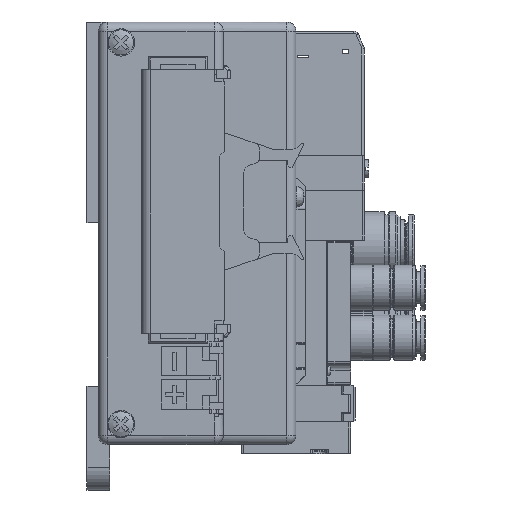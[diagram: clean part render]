
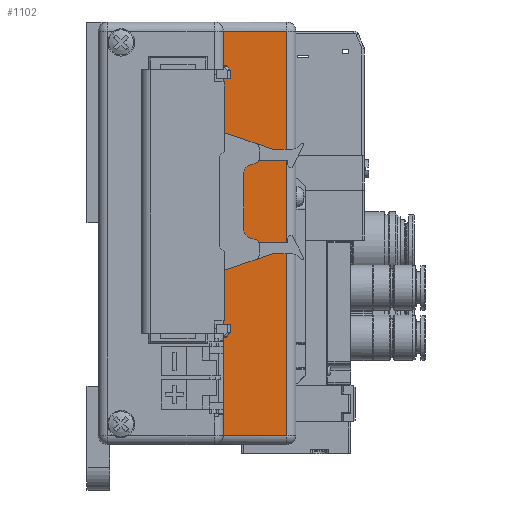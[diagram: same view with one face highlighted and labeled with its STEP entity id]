
A CAD part, left-side view. The second image highlights one B-rep face of the part: STEP entity #1102.
In plain terms, the highlighted planar face has unit normal (-1, 0, 0).
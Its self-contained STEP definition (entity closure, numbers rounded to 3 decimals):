
#1102=ADVANCED_FACE('',(#4792),#4791,.F.);
#4791=PLANE('',#22355);
#4792=FACE_OUTER_BOUND('',#22356,.T.);
#22352=CARTESIAN_POINT('',(20.,-50.4,69.1));
#22353=DIRECTION('',(1.,0.,0.));
#22354=DIRECTION('',(0.,0.,-1.));
#22355=AXIS2_PLACEMENT_3D('',#22352,#22353,#22354);
#22356=EDGE_LOOP('',(#33484,#33485,#33486,#33487));
#33484=ORIENTED_EDGE('',*,*,#42217,.T.);
#33485=ORIENTED_EDGE('',*,*,#42319,.T.);
#33486=ORIENTED_EDGE('',*,*,#42327,.T.);
#33487=ORIENTED_EDGE('',*,*,#42330,.T.);
#42217=EDGE_CURVE('',#47415,#47408,#47416,.T.);
#42319=EDGE_CURVE('',#47408,#48113,#48120,.T.);
#42327=EDGE_CURVE('',#48113,#48165,#48172,.T.);
#42330=EDGE_CURVE('',#48165,#47415,#48190,.T.);
#47408=VERTEX_POINT('',#80141);
#47415=VERTEX_POINT('',#80145);
#47416=LINE('',#80146,#80147);
#48113=VERTEX_POINT('',#80563);
#48120=LINE('',#80568,#80569);
#48165=VERTEX_POINT('',#80594);
#48172=LINE('',#80599,#80600);
#48190=LINE('',#80610,#80611);
#80141=CARTESIAN_POINT('',(20.,-35.,-28.8));
#80145=CARTESIAN_POINT('',(20.,-35.,60.2));
#80146=CARTESIAN_POINT('',(20.,-35.,60.2));
#80147=VECTOR('',#80148,89.);
#80148=DIRECTION('',(0.,0.,-1.));
#80563=CARTESIAN_POINT('',(20.,-49.,-28.8));
#80568=CARTESIAN_POINT('',(20.,-35.,-28.8));
#80569=VECTOR('',#80570,14.);
#80570=DIRECTION('',(0.,-1.,0.));
#80594=CARTESIAN_POINT('',(20.,-49.,60.2));
#80599=CARTESIAN_POINT('',(20.,-49.,-28.8));
#80600=VECTOR('',#80601,89.);
#80601=DIRECTION('',(0.,0.,1.));
#80610=CARTESIAN_POINT('',(20.,-49.,60.2));
#80611=VECTOR('',#80612,14.);
#80612=DIRECTION('',(0.,1.,0.));
